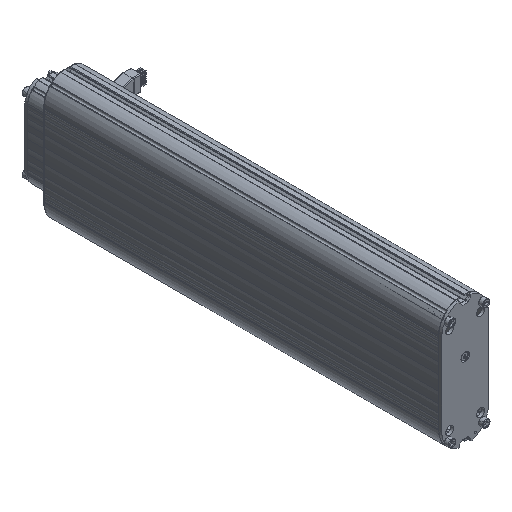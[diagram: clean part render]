
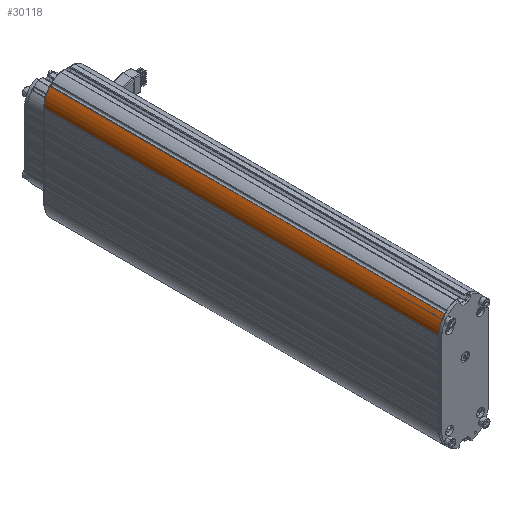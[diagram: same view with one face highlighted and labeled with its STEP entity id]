
A CAD part, isometric view. The second image highlights one B-rep face of the part: STEP entity #30118.
In plain terms, the highlighted cylindrical face has radius 32.5 mm (diameter 65 mm), a partial arc.
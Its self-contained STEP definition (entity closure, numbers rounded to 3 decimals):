
#197 = DIRECTION ( 'NONE',  ( 0., 1., 0. ) ) ;
#1934 = VERTEX_POINT ( 'NONE', #27515 ) ;
#3444 = LINE ( 'NONE', #8422, #6636 ) ;
#5259 = ORIENTED_EDGE ( 'NONE', *, *, #17855, .T. ) ;
#5318 = FACE_OUTER_BOUND ( 'NONE', #48621, .T. ) ;
#6636 = VECTOR ( 'NONE', #46388, 1000. ) ;
#7444 = DIRECTION ( 'NONE',  ( 0., 0., -1. ) ) ;
#8189 = VERTEX_POINT ( 'NONE', #50886 ) ;
#8422 = CARTESIAN_POINT ( 'NONE',  ( -78.021, -542., 24.353 ) ) ;
#10201 = CARTESIAN_POINT ( 'NONE',  ( -78.021, -542., 24.353 ) ) ;
#13912 = CARTESIAN_POINT ( 'NONE',  ( -56.5, -542., 32.5 ) ) ;
#15049 = DIRECTION ( 'NONE',  ( 0., 1., 0. ) ) ;
#17855 = EDGE_CURVE ( 'NONE', #23896, #8189, #28070, .T. ) ;
#21739 = DIRECTION ( 'NONE',  ( 0., 0., 1. ) ) ;
#23867 = CARTESIAN_POINT ( 'NONE',  ( -56.5, 0., 0. ) ) ;
#23896 = VERTEX_POINT ( 'NONE', #13912 ) ;
#27133 = CYLINDRICAL_SURFACE ( 'NONE', #43270, 32.5 ) ;
#27515 = CARTESIAN_POINT ( 'NONE',  ( -78.021, 0., 24.353 ) ) ;
#28070 = LINE ( 'NONE', #33089, #44634 ) ;
#29802 = ORIENTED_EDGE ( 'NONE', *, *, #42659, .F. ) ;
#30118 = ADVANCED_FACE ( 'NONE', ( #5318 ), #27133, .T. ) ;
#33089 = CARTESIAN_POINT ( 'NONE',  ( -56.5, -542., 32.5 ) ) ;
#35102 = CIRCLE ( 'NONE', #62642, 32.5 ) ;
#38586 = ORIENTED_EDGE ( 'NONE', *, *, #67701, .T. ) ;
#42659 = EDGE_CURVE ( 'NONE', #1934, #8189, #68904, .T. ) ;
#43270 = AXIS2_PLACEMENT_3D ( 'NONE', #70887, #52974, #21739 ) ;
#44634 = VECTOR ( 'NONE', #197, 1000. ) ;
#46388 = DIRECTION ( 'NONE',  ( 0., -1., 0. ) ) ;
#47112 = AXIS2_PLACEMENT_3D ( 'NONE', #23867, #61925, #7444 ) ;
#48621 = EDGE_LOOP ( 'NONE', ( #29802, #51019, #38586, #5259 ) ) ;
#50886 = CARTESIAN_POINT ( 'NONE',  ( -56.5, 0., 32.5 ) ) ;
#51019 = ORIENTED_EDGE ( 'NONE', *, *, #61363, .T. ) ;
#52974 = DIRECTION ( 'NONE',  ( 0., 1., 0. ) ) ;
#58471 = CARTESIAN_POINT ( 'NONE',  ( -56.5, -542., 0. ) ) ;
#61363 = EDGE_CURVE ( 'NONE', #1934, #61554, #3444, .T. ) ;
#61554 = VERTEX_POINT ( 'NONE', #10201 ) ;
#61925 = DIRECTION ( 'NONE',  ( 0., 1., 0. ) ) ;
#62642 = AXIS2_PLACEMENT_3D ( 'NONE', #58471, #15049, #70640 ) ;
#67701 = EDGE_CURVE ( 'NONE', #61554, #23896, #35102, .T. ) ;
#68904 = CIRCLE ( 'NONE', #47112, 32.5 ) ;
#70640 = DIRECTION ( 'NONE',  ( 0., 0., -1. ) ) ;
#70887 = CARTESIAN_POINT ( 'NONE',  ( -56.5, -542., 0. ) ) ;
